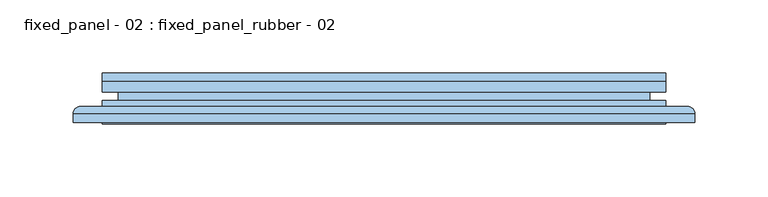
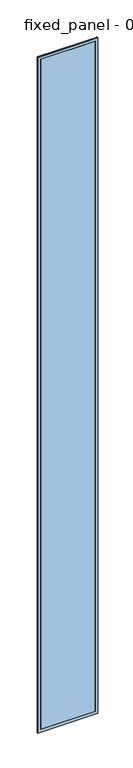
"""IFC4 building model written with IfcOpenShell, lengths in millimetres: window geometry, fixed_panel - 02 : fixed_panel_rubber - 02."""

from ifc_helpers import new_model, si_unit, frame, origin, origin_with_axes, place, context, project, spatial, polyline, ellipse_curve, outline, extrude, faceted_brep, source, transform, mapped, element, save
from ifc_brep_helpers import plane_surface, cylinder_surface, advanced_brep


def fixed_panel_02_fixed_panel_rubber_02_349c402d(model_context):
    return source(origin(), model_context, "Body", "SolidModel", [
        advanced_brep(
        [(192.5018696, -27.9878211, 5000.0), (197.5018696, -22.9878211, 5005.0), (197.5018696, -22.9878211, -5.0), (192.5018696, -27.9878211, 0.0), (207.4995476, -22.9878211, -14.9976779), (-207.4995476, -22.9878211, -14.9976779), (-207.4995476, -22.9878211, 5014.9976779), (207.4995476, -22.9878211, 5014.9976779), (-197.5018696, -22.9878211, 5005.0), (-197.5018696, -22.9878211, -5.0), (-192.5018696, -27.9878211, 0.0), (192.5018696, -34.0, 5000.0), (192.5018696, -34.0, 0.0), (-192.5018696, -34.0, 0.0), (212.4952231, -34.0, 5019.9933535), (-212.4952231, -34.0, 5019.9933535), (-212.4952231, -34.0, -19.9933535), (212.4952231, -34.0, -19.9933535), (-192.5018696, -34.0, 5000.0), (212.4952231, -27.9834967, 5019.9933535), (212.4952231, -27.9834967, -19.9933535), (-212.4952231, -27.9834967, -19.9933535), (-192.5018696, -27.9878211, 5000.0), (-212.4952231, -27.9834967, 5019.9933535)],
        [
            (0, 1, ellipse_curve(frame((197.5018696, -27.9878211, 5005.0), z_axis=(0.7071067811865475, 0.0, -0.7071067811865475), x_axis=(0.7071067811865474, 0.0, 0.7071067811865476)), 7.0710678, 5.0)),
            (1, 2),
            (2, 3, ellipse_curve(frame((197.5018696, -27.9878211, -5.0), z_axis=(0.7071067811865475, 0.0, 0.7071067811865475), x_axis=(-0.7071067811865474, 0.0, 0.7071067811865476)), 7.0710678, 5.0)),
            (3, 0),
            (4, 5),
            (5, 6),
            (6, 7),
            (7, 4),
            (1, 8),
            (8, 9),
            (9, 2),
            (9, 10, ellipse_curve(frame((-197.5018696, -27.9878211, -5.0), z_axis=(0.7071067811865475, 0.0, -0.7071067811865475), x_axis=(0.7071067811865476, 0.0, 0.7071067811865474)), 7.0710678, 5.0)),
            (10, 3),
            (11, 0),
            (3, 12),
            (12, 11),
            (10, 13),
            (13, 12),
            (14, 15),
            (15, 16),
            (16, 17),
            (17, 14),
            (13, 18),
            (18, 11),
            (19, 14),
            (17, 20),
            (20, 19),
            (16, 21),
            (21, 20),
            (7, 19, ellipse_curve(frame((207.4995476, -27.9834967, 5014.9976779), z_axis=(0.7071067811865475, 0.0, -0.7071067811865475), x_axis=(0.7071067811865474, 0.0, 0.7071067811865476)), 7.0649521, 4.9956756)),
            (20, 4, ellipse_curve(frame((207.4995476, -27.9834967, -14.9976779), z_axis=(0.7071067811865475, 0.0, 0.7071067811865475), x_axis=(-0.7071067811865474, 0.0, 0.7071067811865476)), 7.0649521, 4.9956756)),
            (21, 5, ellipse_curve(frame((-207.4995476, -27.9834967, -14.9976779), z_axis=(0.7071067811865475, 0.0, -0.7071067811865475), x_axis=(0.7071067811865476, 0.0, 0.7071067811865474)), 7.0649521, 4.9956756)),
            (8, 22, ellipse_curve(frame((-197.5018696, -27.9878211, 5005.0), z_axis=(-0.7071067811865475, 0.0, -0.7071067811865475), x_axis=(0.7071067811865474, 0.0, -0.7071067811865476)), 7.0710678, 5.0)),
            (22, 10),
            (22, 18),
            (15, 23),
            (23, 21),
            (23, 6, ellipse_curve(frame((-207.4995476, -27.9834967, 5014.9976779), z_axis=(-0.7071067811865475, 0.0, -0.7071067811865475), x_axis=(0.7071067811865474, 0.0, -0.7071067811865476)), 7.0649521, 4.9956756)),
            (0, 22),
            (19, 23),
        ],
        [
            cylinder_surface(frame((197.5018696, -27.9878211, 5000.0), z_axis=(0.0, 0.0, 1.0), x_axis=(1.0, 0.0, 0.0)), 5.0),
            plane_surface(frame((-207.4995476, -22.9878211, 5014.9976779), z_axis=(0.0, 1.0, 0.0), x_axis=(1.0, 0.0, 0.0))),
            cylinder_surface(frame((192.5018696, -27.9878211, -5.0), z_axis=(1.0, 0.0, 0.0), x_axis=(0.0, 0.0, -1.0)), 5.0),
            plane_surface(frame((192.5018696, -27.9878211, 5000.0), z_axis=(-1.0, 0.0, 0.0), x_axis=(0.0, 0.0, -1.0))),
            plane_surface(frame((192.5018696, -27.9878211, 0.0), z_axis=(0.0, 0.0, 1.0), x_axis=(-1.0, 0.0, 0.0))),
            plane_surface(frame((-192.5018696, -34.0, 5000.0), z_axis=(0.0, -1.0, 0.0), x_axis=(1.0, 0.0, 0.0))),
            plane_surface(frame((212.4952231, -34.0, 5019.9933535), z_axis=(1.0, 0.0, 0.0), x_axis=(0.0, 0.0, -1.0))),
            plane_surface(frame((212.4952231, -34.0, -19.9933535), z_axis=(0.0, 0.0, -1.0), x_axis=(-1.0, 0.0, 0.0))),
            cylinder_surface(frame((207.4995476, -27.9834967, 5000.0), z_axis=(0.0, 0.0, 1.0), x_axis=(1.0, 0.0, 0.0)), 4.9956756),
            cylinder_surface(frame((192.5018696, -27.9834967, -14.9976779), z_axis=(1.0, 0.0, 0.0), x_axis=(0.0, 0.0, -1.0)), 4.9956756),
            cylinder_surface(frame((-197.5018696, -27.9878211, 0.0), z_axis=(0.0, 0.0, -1.0), x_axis=(-1.0, 0.0, 0.0)), 5.0),
            plane_surface(frame((-192.5018696, -27.9878211, 0.0), z_axis=(1.0, 0.0, 0.0), x_axis=(0.0, 0.0, 1.0))),
            plane_surface(frame((-212.4952231, -34.0, -19.9933535), z_axis=(-1.0, 0.0, 0.0), x_axis=(0.0, 0.0, 1.0))),
            cylinder_surface(frame((-207.4995476, -27.9834967, 0.0), z_axis=(0.0, 0.0, -1.0), x_axis=(-1.0, 0.0, 0.0)), 4.9956756),
            cylinder_surface(frame((-192.5018696, -27.9878211, 5005.0), z_axis=(-1.0, 0.0, 0.0), x_axis=(0.0, 0.0, 1.0)), 5.0),
            plane_surface(frame((-192.5018696, -27.9878211, 5000.0), z_axis=(0.0, 0.0, -1.0), x_axis=(1.0, 0.0, 0.0))),
            plane_surface(frame((-212.4952231, -34.0, 5019.9933535), z_axis=(0.0, 0.0, 1.0), x_axis=(1.0, 0.0, 0.0))),
            cylinder_surface(frame((-192.5018696, -27.9834967, 5014.9976779), z_axis=(-1.0, 0.0, 0.0), x_axis=(0.0, 0.0, 1.0)), 4.9956756),
        ],
        [
            (0, [[1, 2, 3, 4]]),
            (1, [[5, 6, 7, 8], [9, 10, 11, -2]]),
            (2, [[-3, -11, 12, 13]]),
            (3, [[14, -4, 15, 16]]),
            (4, [[-15, -13, 17, 18]]),
            (5, [[19, 20, 21, 22], [-18, 23, 24, -16]]),
            (6, [[25, -22, 26, 27]]),
            (7, [[-26, -21, 28, 29]]),
            (8, [[30, -27, 31, -8]]),
            (9, [[-31, -29, 32, -5]]),
            (10, [[-12, -10, 33, 34]]),
            (11, [[-17, -34, 35, -23]]),
            (12, [[-28, -20, 36, 37]]),
            (13, [[-32, -37, 38, -6]]),
            (14, [[-33, -9, -1, 39]]),
            (15, [[-35, -39, -14, -24]]),
            (16, [[-36, -19, -25, 40]]),
            (17, [[-38, -40, -30, -7]]),
        ],
    ),
        faceted_brep([(166.5018696, -26.0, 4974.0), (166.5018696, -6.0, 4974.0), (166.5018696, -6.0, 26.0), (166.5018696, -26.0, 26.0), (192.5018696, -6.0, 0.0), (-192.5018696, -6.0, 0.0), (-192.5018696, -6.0, 5000.0), (192.5018696, -6.0, 5000.0), (-166.5018696, -6.0, 4974.0), (-166.5018696, -6.0, 26.0), (-166.5018696, -26.0, 26.0), (192.5018696, -26.0, 5000.0), (-192.5018696, -26.0, 5000.0), (-192.5018696, -26.0, 0.0), (192.5018696, -26.0, 0.0), (-166.5018696, -26.0, 4974.0), (192.5018696, -18.8, 5000.0), (192.5018696, -18.8, 0.0), (-192.5018696, -18.8, 0.0), (-192.5018696, -18.8, 5000.0), (181.5018696, -18.8, 4989.0), (-181.5018696, -18.8, 4989.0), (-181.5018696, -18.8, 11.0), (181.5018696, -18.8, 11.0), (181.5018696, -13.2, 4989.0), (181.5018696, -13.2, 11.0), (-181.5018696, -13.2, 11.0), (192.5018696, -13.2, 5000.0), (-192.5018696, -13.2, 5000.0), (-192.5018696, -13.2, 0.0), (192.5018696, -13.2, 0.0), (-181.5018696, -13.2, 4989.0)], [[[0, 1, 2, 3]], [[4, 5, 6, 7], [1, 8, 9, 2]], [[3, 2, 9, 10]], [[11, 12, 13, 14], [3, 10, 15, 0]], [[16, 11, 14, 17]], [[17, 14, 13, 18]], [[17, 18, 19, 16], [20, 21, 22, 23]], [[24, 20, 23, 25]], [[25, 23, 22, 26]], [[27, 28, 29, 30], [25, 26, 31, 24]], [[7, 27, 30, 4]], [[4, 30, 29, 5]], [[10, 9, 8, 15]], [[18, 13, 12, 19]], [[26, 22, 21, 31]], [[5, 29, 28, 6]], [[15, 8, 1, 0]], [[19, 12, 11, 16]], [[31, 21, 20, 24]], [[6, 28, 27, 7]]]),
        extrude(outline(polyline([(192.5018696, -34.0), (-192.5018696, -34.0), (-192.5018696, -26.0), (192.5018696, -26.0), (192.5018696, -34.0)])), origin_with_axes(), (0.0, 0.0, 1.0), 5000.0),
        extrude(outline(polyline([(192.5018696, -6.0), (-192.5018696, -6.0), (-192.5018696, 0.0), (192.5018696, 0.0), (192.5018696, -6.0)])), origin_with_axes(), (0.0, 0.0, 1.0), 5000.0),
    ])


if __name__ == "__main__":
    model = new_model("IFC4")
    model_context = context("Model", 3, world=origin())
    ifc_project = project(units=[si_unit("LENGTHUNIT", "METRE", prefix="MILLI")], contexts=[model_context])
    site = spatial("IfcSite", under=ifc_project)
    building = spatial("IfcBuilding", under=site)
    placement = place(None, origin())
    fixed_panel_02_fixed_panel_rubber_02_shape = fixed_panel_02_fixed_panel_rubber_02_349c402d(model_context)
    element("IfcWindow", 1, ObjectType="fixed_panel - 02 : fixed_panel_rubber - 02", at=placement, inside=building, context=model_context, shape_type="MappedRepresentation", body=[
        mapped(fixed_panel_02_fixed_panel_rubber_02_shape, transform((0.0, 0.0, 0.0), x_axis=(1.0, 0.0, 0.0), y_axis=(0.0, 1.0, 0.0), z_axis=(0.0, 0.0, 1.0))),
    ])
    save(model, "model.ifc")
